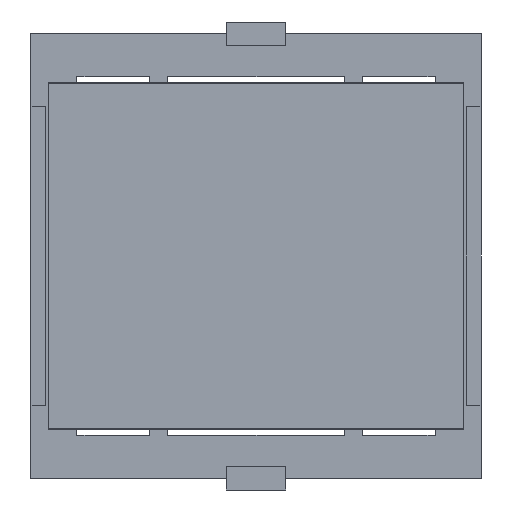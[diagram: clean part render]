
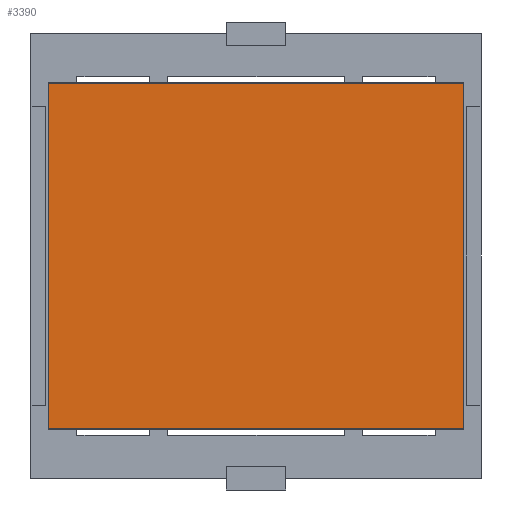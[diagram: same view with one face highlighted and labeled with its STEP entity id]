
A CAD part, front view. The second image highlights one B-rep face of the part: STEP entity #3390.
In plain terms, the highlighted planar face has unit normal (0, -1, 0).
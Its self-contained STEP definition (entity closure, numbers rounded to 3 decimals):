
#10 = VECTOR ( 'NONE', #6527, 1000. ) ;
#145 = AXIS2_PLACEMENT_3D ( 'NONE', #6249, #1494, #5723 ) ;
#150 = CARTESIAN_POINT ( 'NONE',  ( 19.086, -18.701, -2.749 ) ) ;
#405 = EDGE_CURVE ( 'NONE', #4695, #3816, #3965, .T. ) ;
#685 = CARTESIAN_POINT ( 'NONE',  ( 19.086, -18.701, 26.207 ) ) ;
#744 = ORIENTED_EDGE ( 'NONE', *, *, #405, .F. ) ;
#1012 = PLANE ( 'NONE',  #145 ) ;
#1164 = DIRECTION ( 'NONE',  ( 1., 0., 0. ) ) ;
#1363 = CARTESIAN_POINT ( 'NONE',  ( -15.712, -18.701, -2.749 ) ) ;
#1494 = DIRECTION ( 'NONE',  ( 0., 1., 0. ) ) ;
#2106 = CARTESIAN_POINT ( 'NONE',  ( 19.086, -18.701, -2.749 ) ) ;
#2153 = CARTESIAN_POINT ( 'NONE',  ( -15.712, -18.701, -2.749 ) ) ;
#2463 = EDGE_LOOP ( 'NONE', ( #5995, #744, #2599, #3625 ) ) ;
#2599 = ORIENTED_EDGE ( 'NONE', *, *, #5684, .F. ) ;
#3057 = VECTOR ( 'NONE', #6856, 1000. ) ;
#3088 = EDGE_CURVE ( 'NONE', #3816, #5471, #5775, .T. ) ;
#3253 = VERTEX_POINT ( 'NONE', #685 ) ;
#3390 = ADVANCED_FACE ( 'NONE', ( #5795 ), #1012, .F. ) ;
#3468 = CARTESIAN_POINT ( 'NONE',  ( -15.712, -18.701, 26.207 ) ) ;
#3550 = VECTOR ( 'NONE', #1164, 1000. ) ;
#3625 = ORIENTED_EDGE ( 'NONE', *, *, #6173, .F. ) ;
#3816 = VERTEX_POINT ( 'NONE', #1363 ) ;
#3965 = LINE ( 'NONE', #5585, #10 ) ;
#4336 = LINE ( 'NONE', #6466, #3550 ) ;
#4695 = VERTEX_POINT ( 'NONE', #150 ) ;
#5283 = LINE ( 'NONE', #2106, #6786 ) ;
#5319 = DIRECTION ( 'NONE',  ( 0., 0., -1. ) ) ;
#5471 = VERTEX_POINT ( 'NONE', #3468 ) ;
#5585 = CARTESIAN_POINT ( 'NONE',  ( -15.712, -18.701, -2.749 ) ) ;
#5684 = EDGE_CURVE ( 'NONE', #3253, #4695, #5283, .T. ) ;
#5723 = DIRECTION ( 'NONE',  ( 0., 0., 1. ) ) ;
#5775 = LINE ( 'NONE', #2153, #3057 ) ;
#5795 = FACE_OUTER_BOUND ( 'NONE', #2463, .T. ) ;
#5995 = ORIENTED_EDGE ( 'NONE', *, *, #3088, .F. ) ;
#6173 = EDGE_CURVE ( 'NONE', #5471, #3253, #4336, .T. ) ;
#6249 = CARTESIAN_POINT ( 'NONE',  ( -15.712, -18.701, 26.207 ) ) ;
#6466 = CARTESIAN_POINT ( 'NONE',  ( -15.712, -18.701, 26.207 ) ) ;
#6527 = DIRECTION ( 'NONE',  ( -1., 0., 0. ) ) ;
#6786 = VECTOR ( 'NONE', #5319, 1000. ) ;
#6856 = DIRECTION ( 'NONE',  ( 0., 0., 1. ) ) ;
